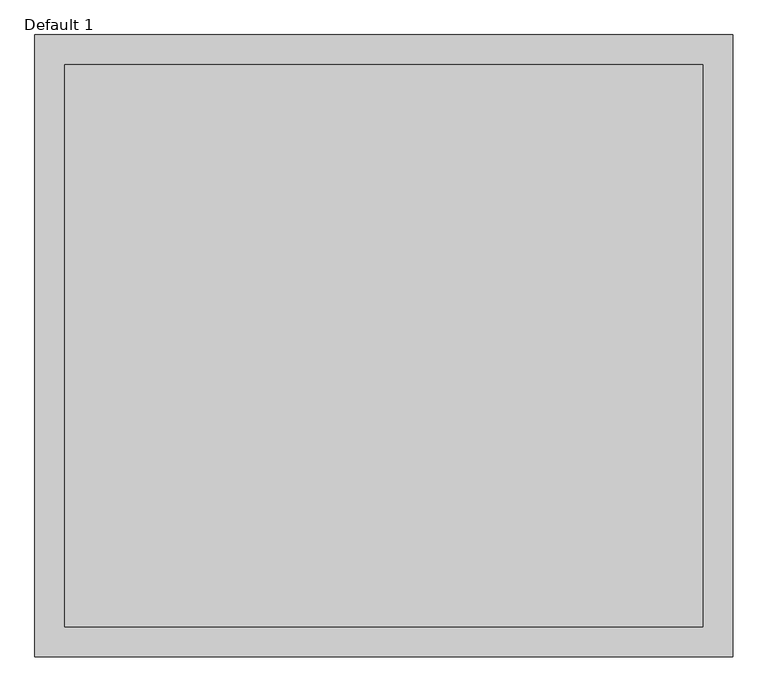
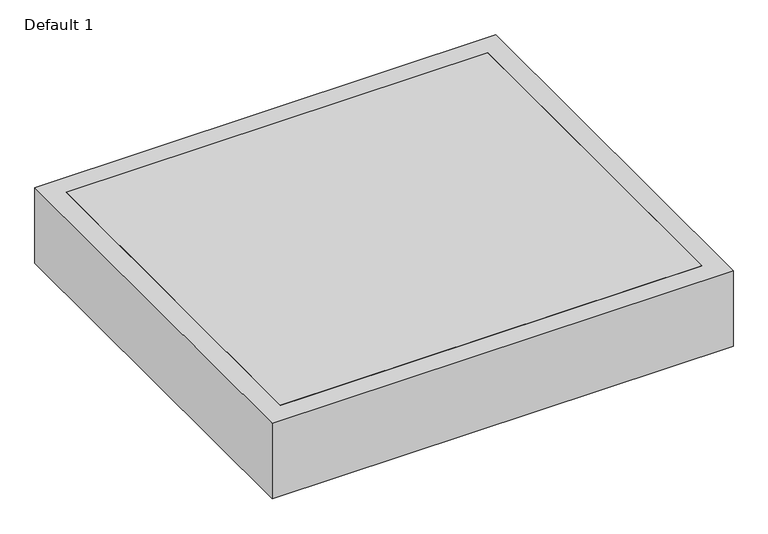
"""IFC4 building model written with IfcOpenShell, lengths in millimetres: proxy geometry, Skylite : Default 1."""

from ifc_helpers import new_model, si_unit, frame, origin, place, context, project, spatial, polyline, outline, extrude, source, transform, mapped, element, save


def default_1_d1f06506(model_context):
    return source(origin(), model_context, "Body", "SweptSolid", [
        extrude(outline(polyline([(-534.2, 470.7), (534.2, 470.7), (534.2, -470.7), (-534.2, -470.7), (-534.2, 470.7)])), frame((0.0, 0.0, 4157.0595878), z_axis=(0.0, 0.0, 1.0), x_axis=(1.0, 0.0, 0.0)), (0.0, 0.0, 1.0), 20.0),
        extrude(outline(polyline([(-584.2, -520.7), (-584.2, 520.7), (584.2, 520.7), (584.2, -520.7), (-584.2, -520.7)]), holes=[polyline([(534.2, 470.7), (-534.2, 470.7), (-534.2, -470.7), (534.2, -470.7), (534.2, 470.7)])]), frame((0.0, 0.0, 3974.6408791), z_axis=(0.0, 0.0, 1.0), x_axis=(1.0, 0.0, 0.0)), (0.0, 0.0, 1.0), 202.4187087),
    ])


if __name__ == "__main__":
    model = new_model("IFC4")
    model_context = context("Model", 3, world=origin())
    ifc_project = project(units=[si_unit("LENGTHUNIT", "METRE", prefix="MILLI")], contexts=[model_context])
    site = spatial("IfcSite", under=ifc_project)
    building = spatial("IfcBuilding", under=site)
    placement = place(None, origin())
    default_1_shape = default_1_d1f06506(model_context)
    element("IfcBuildingElementProxy", 1, Name="Skylite : Default 1", ObjectType="Skylite : Default 1", at=placement, inside=building, context=model_context, shape_type="MappedRepresentation", body=[
        mapped(default_1_shape, transform((0.0, 0.0, 0.0), x_axis=(1.0, 0.0, 0.0), y_axis=(0.0, 1.0, 0.0), z_axis=(0.0, 0.0, 1.0))),
    ])
    save(model, "model.ifc")
